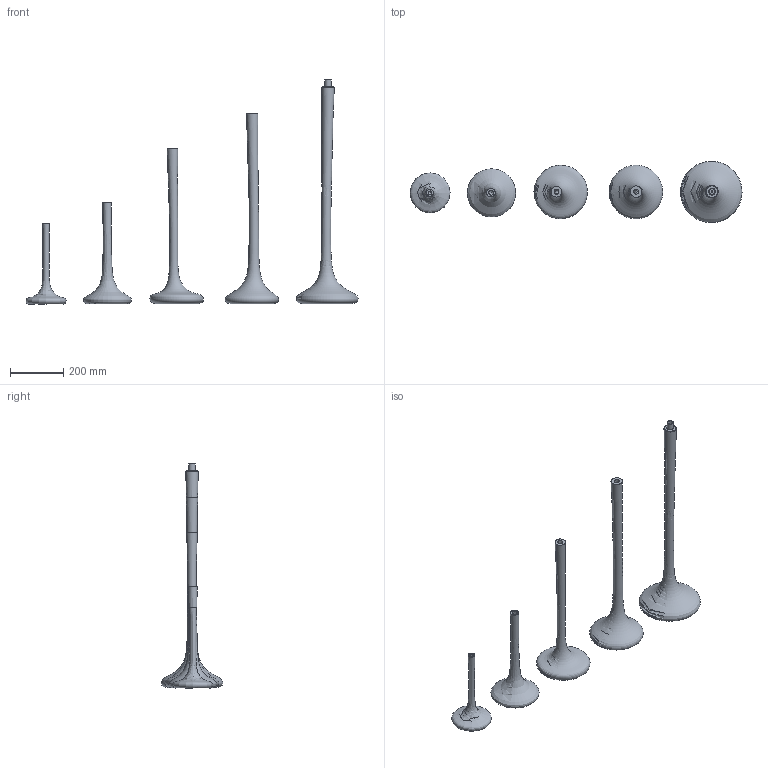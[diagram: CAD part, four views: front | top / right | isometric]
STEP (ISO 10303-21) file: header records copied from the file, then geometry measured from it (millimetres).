
FILE_DESCRIPTION(/* description */ (''),/* implementation_level */ '2;1');
FILE_NAME(/* name */ 'SkLO_PuddleVessel_3D.3dm',/* time_stamp */ '2024-08-08T22:52:45+02:00',/* author */ (''),/* organization */ (''),/* preprocessor_version */ 'ST-DEVELOPER v16.5',/* originating_system */ 'Rhino 7.34',/* authorisation */ '');
FILE_SCHEMA (('CONFIG_CONTROL_DESIGN'));
Length unit declared in the file: millimetre
Products named in the file (1): Document
Bounding box: 1242.46 x 229.9 x 838.82 mm (x, y, z)
Volume: 8077195.2 mm3; surface area: 773890.3 mm2
Topology: 6 solids, 6 shells, 24 faces, 54 edges, 30 vertices
Faces by surface type: bspline 21, cylinder 3
Full cylindrical faces by diameter (mm): 20.5 x1, 23.5 x1, 43 x1
Entity records: 25416 total; most frequent: CARTESIAN_POINT 25042, ORIENTED_EDGE 84, EDGE_CURVE 42, VERTEX_POINT 30, ADVANCED_FACE 24, FACE_OUTER_BOUND 24, EDGE_LOOP 24, B_SPLINE_CURVE_WITH_KNOTS 22
